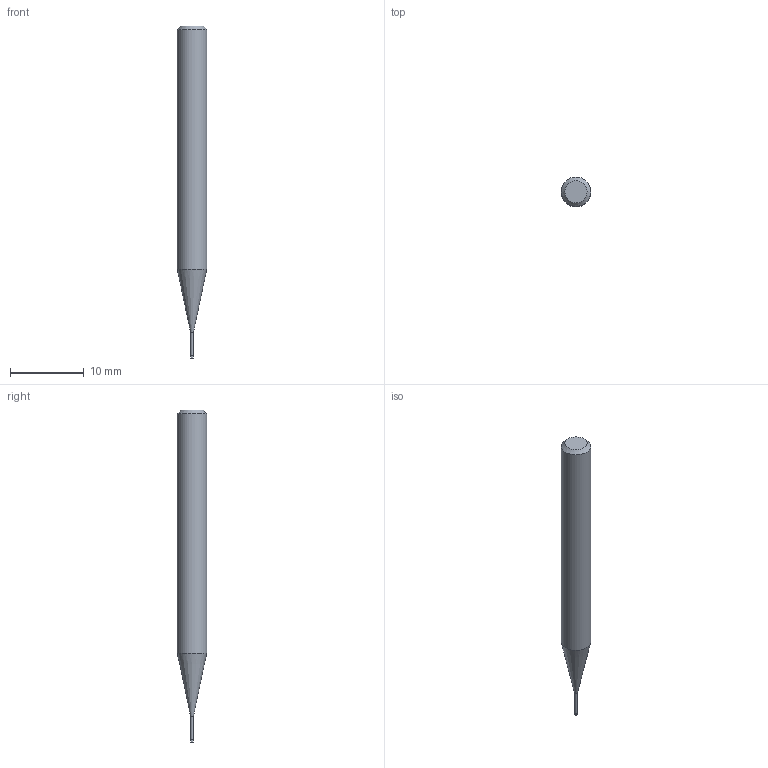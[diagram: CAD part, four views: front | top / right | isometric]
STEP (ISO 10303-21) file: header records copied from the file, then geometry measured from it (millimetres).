
FILE_DESCRIPTION((''),'2;1');
FILE_NAME('C:\Users\nsx150\AppData\Local\Temp\Mastercam 2021\RJ5U8K7RMU\TEMP.step','2021-04-21T16:39:49',(''),(''),'STEP Write','Mastercam 2021 ... CNC Software, Inc.','');
FILE_SCHEMA(('AUTOMOTIVE_DESIGN'));
Length unit declared in the file: millimetre
Products named in the file (1): None
Bounding box: 4 x 4 x 45 mm (x, y, z)
Volume: 452.5 mm3; surface area: 487.1 mm2
Topology: 2 solids, 2 shells, 9 faces, 12 edges, 7 vertices
Faces by surface type: plane 4, cylinder 3, cone 2
Full cylindrical faces by diameter (mm): 0.37 x1, 0.4 x1, 4 x1
Entity records: 211 total; most frequent: DIRECTION 36, CARTESIAN_POINT 25, AXIS2_PLACEMENT_3D 18, ORIENTED_EDGE 14, EDGE_LOOP 14, STYLED_ITEM 12, ADVANCED_FACE 9, FACE_BOUND 8
